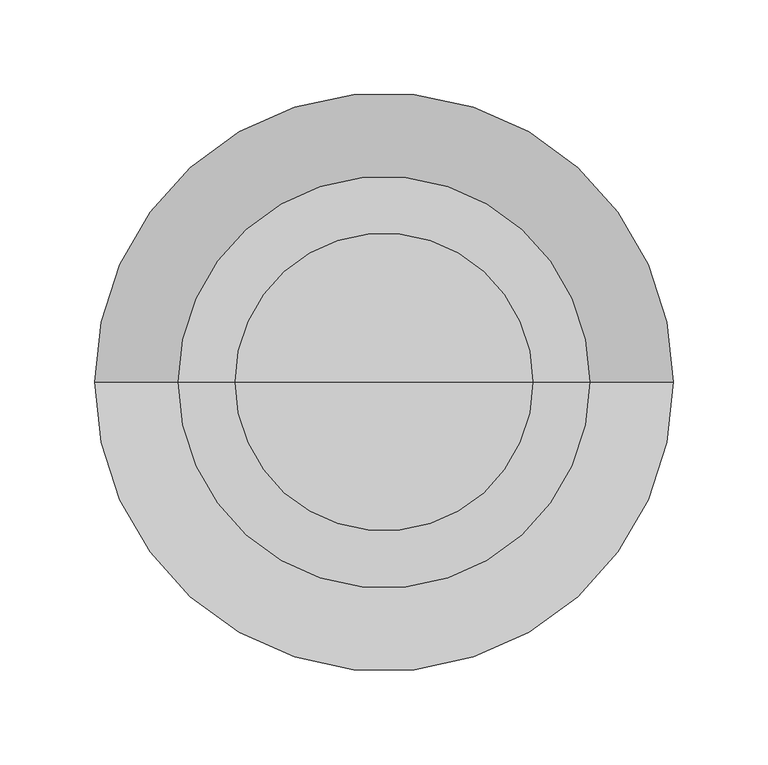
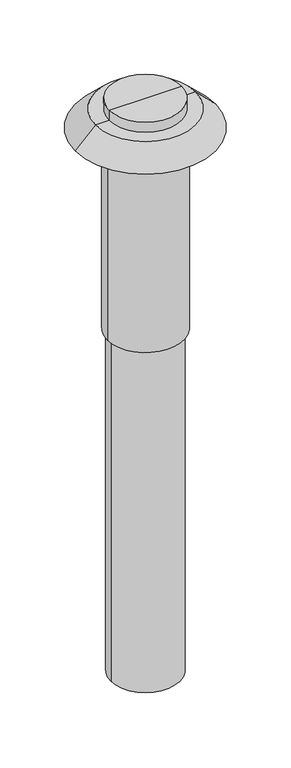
"""IFC4 building model written with IfcOpenShell, lengths in millimetres: air terminal geometry, NLRS_57_AIR_WPB_roof ventilation terminals_M&G : PP Black, ø150 - L=1310mm."""

from ifc_helpers import new_model, si_unit, frame, origin, place, context, project, spatial, polyline, circle_curve, source, transform, mapped, element, save
from ifc_brep_helpers import plane_surface, cylinder_surface, revolved_surface, advanced_brep


def air_terminal_46879f65(model_context):
    return source(origin(), model_context, "Body", "AdvancedBrep", [
        advanced_brep(
        [(78.5, 0.0, 525.0), (-78.5, 0.0, 525.0), (0.0, 0.0, 525.0), (78.5, 0.0, 502.0), (-78.5, 0.0, 502.0), (0.0, 0.0, 502.0)],
        [
            (0, 1, circle_curve(frame((0.0, 0.0, 525.0), z_axis=(0.0, 0.0, 1.0), x_axis=(-1.0, 0.0, 0.0)), 78.5)),
            (1, 2),
            (2, 0),
            (1, 0, circle_curve(frame((0.0, 0.0, 525.0), z_axis=(0.0, 0.0, 1.0), x_axis=(-1.0, 0.0, 0.0)), 78.5)),
            (3, 4, circle_curve(frame((0.0, 0.0, 502.0), z_axis=(0.0, 0.0, 1.0), x_axis=(-1.0, 0.0, 0.0)), 78.5)),
            (4, 1),
            (0, 3),
            (4, 3, circle_curve(frame((0.0, 0.0, 502.0), z_axis=(0.0, 0.0, 1.0), x_axis=(-1.0, 0.0, 0.0)), 78.5)),
            (5, 4),
            (3, 5),
        ],
        [
            plane_surface(frame((0.0, 0.0, 525.0), z_axis=(0.0, 0.0, 1.0), x_axis=(-1.0, 0.0, 0.0))),
            cylinder_surface(frame((0.0, 0.0, 2228.3150031), z_axis=(0.0, 0.0, -1.0), x_axis=(-1.0, 0.0, 0.0)), 78.5),
            plane_surface(frame((0.0, 0.0, 502.0), z_axis=(0.0, 0.0, -1.0), x_axis=(-1.0, 0.0, 0.0))),
        ],
        [
            (0, [[1, 2, 3]]),
            (0, [[4, -3, -2]]),
            (1, [[5, 6, -1, 7]]),
            (1, [[8, -7, -4, -6]]),
            (2, [[9, -5, 10]]),
            (2, [[-10, -8, -9]]),
        ],
    ),
        advanced_brep(
        [(82.5, 0.0, 458.0), (-82.5, 0.0, 458.0), (0.0, 0.0, 458.0), (82.5, 0.0, 0.0), (-82.5, 0.0, 0.0), (0.0, 0.0, 0.0)],
        [
            (0, 1, circle_curve(frame((0.0, 0.0, 458.0), z_axis=(0.0, 0.0, 1.0), x_axis=(-1.0, 0.0, 0.0)), 82.5)),
            (1, 2),
            (2, 0),
            (1, 0, circle_curve(frame((0.0, 0.0, 458.0), z_axis=(0.0, 0.0, 1.0), x_axis=(-1.0, 0.0, 0.0)), 82.5)),
            (3, 4, circle_curve(frame((0.0, 0.0, 0.0), z_axis=(0.0, 0.0, 1.0), x_axis=(-1.0, 0.0, 0.0)), 82.5)),
            (4, 1),
            (0, 3),
            (4, 3, circle_curve(frame((0.0, 0.0, 0.0), z_axis=(0.0, 0.0, 1.0), x_axis=(-1.0, 0.0, 0.0)), 82.5)),
            (5, 4),
            (3, 5),
        ],
        [
            plane_surface(frame((0.0, 0.0, 458.0), z_axis=(0.0, 0.0, 1.0), x_axis=(-1.0, 0.0, 0.0))),
            cylinder_surface(frame((0.0, 0.0, 2272.3150031), z_axis=(0.0, 0.0, -1.0), x_axis=(-1.0, 0.0, 0.0)), 82.5),
            plane_surface(frame((0.0, 0.0, 0.0), z_axis=(0.0, 0.0, -1.0), x_axis=(-1.0, 0.0, 0.0))),
        ],
        [
            (0, [[1, 2, 3]]),
            (0, [[4, -3, -2]]),
            (1, [[5, 6, -1, 7]]),
            (1, [[8, -7, -4, -6]]),
            (2, [[9, -5, 10]]),
            (2, [[-10, -8, -9]]),
        ],
    ),
        advanced_brep(
        [(108.5, 0.0, 502.0), (-108.5, 0.0, 502.0), (0.0, 0.0, 502.0), (152.5, 0.0, 458.0), (-152.5, 0.0, 458.0), (0.0, 0.0, 458.0)],
        [
            (0, 1, circle_curve(frame((0.0, 0.0, 502.0), z_axis=(0.0, 0.0, 1.0), x_axis=(-1.0, 0.0, 0.0)), 108.5)),
            (1, 2),
            (2, 0),
            (1, 0, circle_curve(frame((0.0, 0.0, 502.0), z_axis=(0.0, 0.0, 1.0), x_axis=(-1.0, 0.0, 0.0)), 108.5)),
            (3, 4, circle_curve(frame((0.0, 0.0, 458.0), z_axis=(0.0, 0.0, 1.0), x_axis=(-1.0, 0.0, 0.0)), 152.5)),
            (4, 1),
            (0, 3),
            (4, 3, circle_curve(frame((0.0, 0.0, 458.0), z_axis=(0.0, 0.0, 1.0), x_axis=(-1.0, 0.0, 0.0)), 152.5)),
            (5, 4),
            (3, 5),
        ],
        [
            plane_surface(frame((0.0, 0.0, 502.0), z_axis=(0.0, 0.0, 1.0), x_axis=(-1.0, 0.0, 0.0))),
            revolved_surface(polyline([(-108.5, 0.0, 502.0), (-152.5, 0.0, 458.0)]), (0.0, 0.0, 2218.3150031), (0.0, 0.0, -1.0)),
            plane_surface(frame((0.0, 0.0, 458.0), z_axis=(0.0, 0.0, -1.0), x_axis=(-1.0, 0.0, 0.0))),
        ],
        [
            (0, [[1, 2, 3]]),
            (0, [[4, -3, -2]]),
            (1, [[5, 6, -1, 7]]),
            (1, [[8, -7, -4, -6]]),
            (2, [[9, -5, 10]]),
            (2, [[-10, -8, -9]]),
        ],
    ),
        advanced_brep(
        [(75.0, 0.0, -784.0), (-75.0, 0.0, -784.0), (-75.0, 0.0, 0.0), (75.0, 0.0, 0.0), (0.0, 0.0, -784.0), (0.0, 0.0, 0.0)],
        [
            (0, 1, circle_curve(frame((0.0, 0.0, -784.0), z_axis=(0.0, 0.0, 1.0), x_axis=(-1.0, 0.0, 0.0)), 75.0)),
            (1, 2),
            (2, 3, circle_curve(frame((0.0, 0.0, 0.0), z_axis=(0.0, 0.0, -1.0), x_axis=(-1.0, 0.0, 0.0)), 75.0)),
            (3, 0),
            (1, 0, circle_curve(frame((0.0, 0.0, -784.0), z_axis=(0.0, 0.0, 1.0), x_axis=(-1.0, 0.0, 0.0)), 75.0)),
            (3, 2, circle_curve(frame((0.0, 0.0, 0.0), z_axis=(0.0, 0.0, -1.0), x_axis=(-1.0, 0.0, 0.0)), 75.0)),
            (4, 1),
            (0, 4),
            (2, 5),
            (5, 3),
        ],
        [
            cylinder_surface(frame((0.0, 0.0, 2218.3150031), z_axis=(0.0, 0.0, -1.0), x_axis=(-1.0, 0.0, 0.0)), 75.0),
            plane_surface(frame((0.0, 0.0, -784.0), z_axis=(0.0, 0.0, -1.0), x_axis=(-1.0, 0.0, 0.0))),
            plane_surface(frame((0.0, 0.0, 0.0), z_axis=(0.0, 0.0, 1.0), x_axis=(-1.0, 0.0, 0.0))),
        ],
        [
            (0, [[1, 2, 3, 4]]),
            (0, [[5, -4, 6, -2]]),
            (1, [[7, -1, 8]]),
            (1, [[-8, -5, -7]]),
            (2, [[-3, 9, 10]]),
            (2, [[-6, -10, -9]]),
        ],
    ),
    ])


if __name__ == "__main__":
    model = new_model("IFC4")
    model_context = context("Model", 3, world=origin())
    ifc_project = project(units=[si_unit("LENGTHUNIT", "METRE", prefix="MILLI")], contexts=[model_context])
    site = spatial("IfcSite", under=ifc_project)
    building = spatial("IfcBuilding", under=site)
    placement = place(None, origin())
    air_terminal_shape = air_terminal_46879f65(model_context)
    element("IfcAirTerminal", 1, ObjectType="NLRS_57_AIR_WPB_roof ventilation terminals_M&G : PP Black, ø150 - L=1310mm", at=placement, inside=building, context=model_context, shape_type="MappedRepresentation", body=[
        mapped(air_terminal_shape, transform((0.0, 0.0, 0.0), x_axis=(1.0, 0.0, 0.0), y_axis=(0.0, 1.0, 0.0), z_axis=(0.0, 0.0, 1.0))),
    ])
    save(model, "model.ifc")
